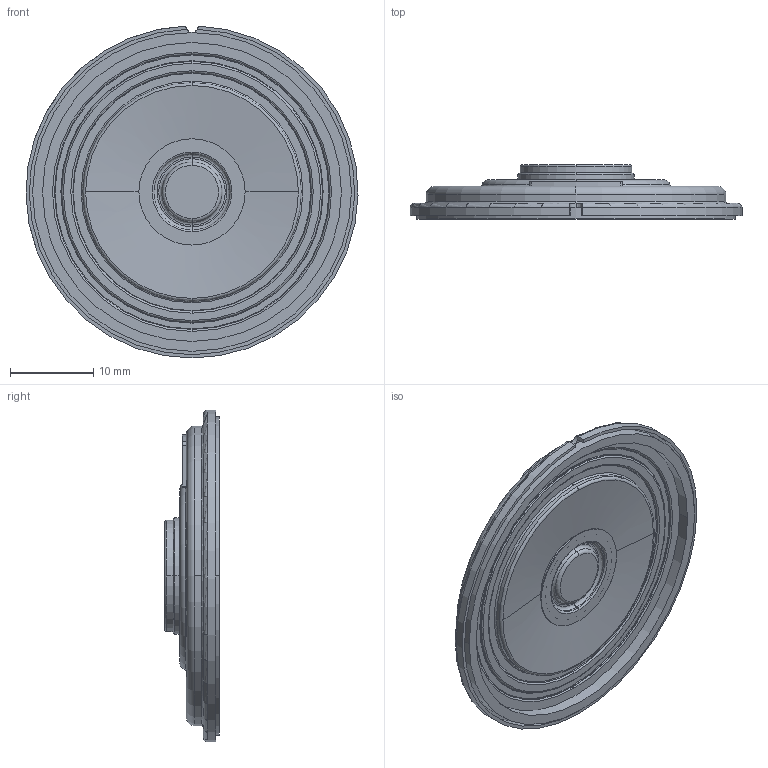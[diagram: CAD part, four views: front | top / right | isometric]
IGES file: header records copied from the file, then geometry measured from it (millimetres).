
Global section: file name: No Iges File Name specified; native system: Autodesk Inventor 2010; preprocessor: AutoDesk Inventor Iges Exporter R2010; author: dunn; date: 20100611.154030; units: millimetre
Bounding box: 39.99 x 6.55 x 39.99 mm (x, y, z)
Volume: 1764.3 mm3; surface area: 5590.4 mm2
Topology: 1 solids, 1 shells, 181 faces, 494 edges, 335 vertices
Faces by surface type: revolution 45, plane 38, cylinder 31, torus 31, bspline 30, cone 6
